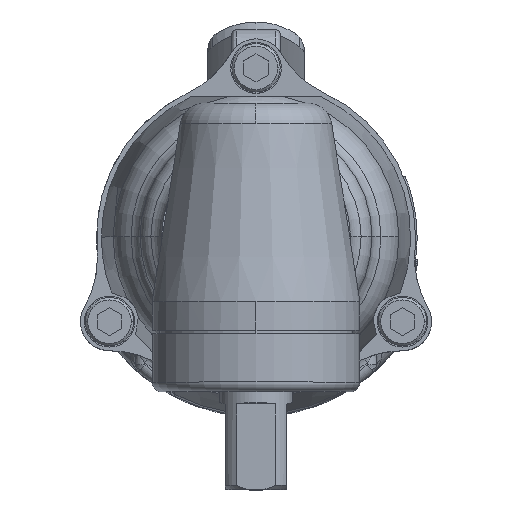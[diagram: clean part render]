
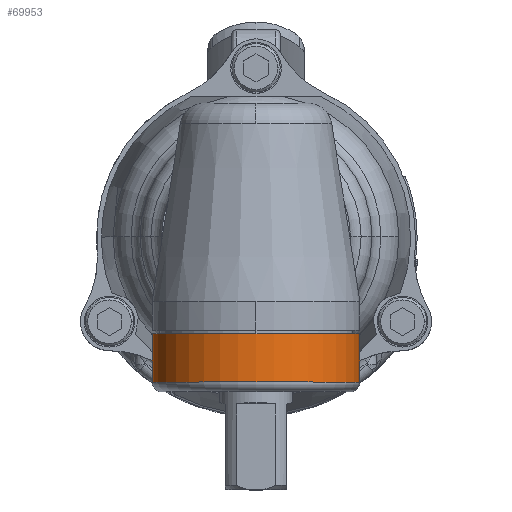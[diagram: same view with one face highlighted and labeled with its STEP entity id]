
A CAD part, top view. The second image highlights one B-rep face of the part: STEP entity #69953.
In plain terms, the highlighted cylindrical face has radius 21.5 mm (diameter 43 mm), a partial arc.
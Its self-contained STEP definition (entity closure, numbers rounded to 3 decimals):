
#24881 = CARTESIAN_POINT ( 'NONE',  ( 21.5, 0., -2. ) ) ;
#24882 = CARTESIAN_POINT ( 'NONE',  ( -21.5, 0., -2. ) ) ;
#24883 = DIRECTION ( 'NONE',  ( 1., 0., 0. ) ) ;
#24884 = DIRECTION ( 'NONE',  ( 0., 0., -1. ) ) ;
#24885 = CARTESIAN_POINT ( 'NONE',  ( 0., 0., -2. ) ) ;
#24886 = AXIS2_PLACEMENT_3D ( 'NONE', #24885, #24884, #24883 ) ;
#24887 = CIRCLE ( 'NONE', #24886, 21.5 ) ;
#25772 = DIRECTION ( 'NONE',  ( 0., 0., 1. ) ) ;
#25798 = VECTOR ( 'NONE', #25772, 1000. ) ;
#25799 = CARTESIAN_POINT ( 'NONE',  ( -21.5, 0., -12. ) ) ;
#25800 = LINE ( 'NONE', #25799, #25798 ) ;
#25801 = CARTESIAN_POINT ( 'NONE',  ( 21.5, 0., -12. ) ) ;
#25803 = CARTESIAN_POINT ( 'NONE',  ( -21.5, 0., -12. ) ) ;
#26381 = DIRECTION ( 'NONE',  ( 1., 0., 0. ) ) ;
#26382 = DIRECTION ( 'NONE',  ( 0., 0., 1. ) ) ;
#26383 = CARTESIAN_POINT ( 'NONE',  ( 0., 0., -12. ) ) ;
#26384 = AXIS2_PLACEMENT_3D ( 'NONE', #26383, #26382, #26381 ) ;
#26385 = CIRCLE ( 'NONE', #26384, 21.5 ) ;
#26388 = DIRECTION ( 'NONE',  ( 1., 0., 0. ) ) ;
#26389 = DIRECTION ( 'NONE',  ( 0., 0., 1. ) ) ;
#26390 = CARTESIAN_POINT ( 'NONE',  ( 0., 0., -12. ) ) ;
#26391 = AXIS2_PLACEMENT_3D ( 'NONE', #26390, #26389, #26388 ) ;
#26392 = CYLINDRICAL_SURFACE ( 'NONE', #26391, 21.5 ) ;
#26393 = FACE_OUTER_BOUND ( 'NONE', #69954, .T. ) ;
#27495 = DIRECTION ( 'NONE',  ( 0., 0., 1. ) ) ;
#27496 = VECTOR ( 'NONE', #27495, 1000. ) ;
#27497 = CARTESIAN_POINT ( 'NONE',  ( 21.5, 0., -12. ) ) ;
#27498 = LINE ( 'NONE', #27497, #27496 ) ;
#69891 = EDGE_CURVE ( 'NONE', #69893, #69894, #24887, .T. ) ;
#69893 = VERTEX_POINT ( 'NONE', #24882 ) ;
#69894 = VERTEX_POINT ( 'NONE', #24881 ) ;
#69953 = ADVANCED_FACE ( 'NONE', ( #26393 ), #26392, .T. ) ;
#69954 = EDGE_LOOP ( 'NONE', ( #69956, #69963, #69994, #69996 ) ) ;
#69956 = ORIENTED_EDGE ( 'NONE', *, *, #69958, .T. ) ;
#69958 = EDGE_CURVE ( 'NONE', #69959, #69961, #26385, .T. ) ;
#69959 = VERTEX_POINT ( 'NONE', #25801 ) ;
#69961 = VERTEX_POINT ( 'NONE', #25803 ) ;
#69963 = ORIENTED_EDGE ( 'NONE', *, *, #69965, .T. ) ;
#69965 = EDGE_CURVE ( 'NONE', #69961, #69893, #25800, .T. ) ;
#69994 = ORIENTED_EDGE ( 'NONE', *, *, #69891, .T. ) ;
#69996 = ORIENTED_EDGE ( 'NONE', *, *, #69998, .F. ) ;
#69998 = EDGE_CURVE ( 'NONE', #69959, #69894, #27498, .T. ) ;
